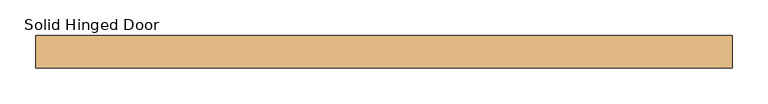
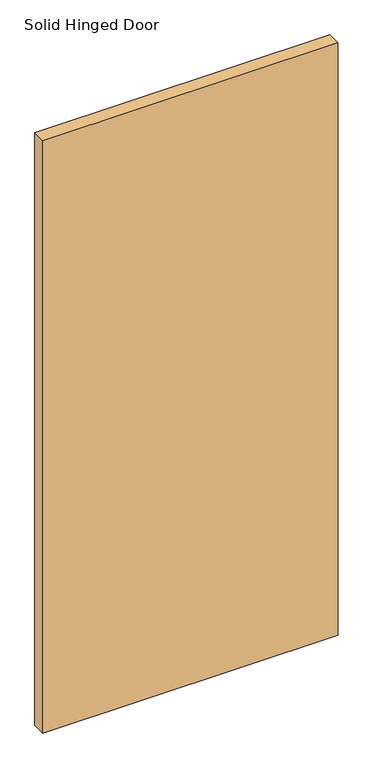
"""IFC4 building model written with IfcOpenShell, lengths in millimetres: door geometry, Solid_Hinged_Door-Teknion-FHDA-Leaf_Single-R2022 : Solid Hinged Door."""

from ifc_helpers import new_model, si_unit, frame, origin, place, context, project, spatial, polyline, outline, extrude, faceted_brep, source, transform, mapped, element, save


def solid_hinged_door_73ac0cfe(model_context):
    return source(origin(), model_context, "Body", "SolidModel", [
        faceted_brep([(490.4564326, 23.114, 12.7), (490.4564326, 7.1501, 12.7), (-484.1064326, 7.1501, 12.7), (-484.1064326, -7.1501, 12.7), (490.4564326, -7.1501, 12.7), (490.4564326, -23.114, 12.7), (-490.4564326, -23.114, 12.7), (-490.4564326, 23.114, 12.7), (490.4564326, -23.114, 2093.9635027), (490.4564326, -7.1501, 50.8), (490.4564326, 7.1501, 50.8), (490.4564326, 23.114, 2093.9635027), (-490.4564326, 23.114, 2093.9635027), (-490.4564326, -23.114, 2093.9635027), (-484.1064326, -7.1501, 50.8), (-484.1064326, 7.1501, 50.8)], [[[0, 1, 2, 3, 4, 5, 6, 7]], [[8, 5, 4, 9, 10, 1, 0, 11]], [[11, 0, 7, 12]], [[12, 7, 6, 13]], [[13, 6, 5, 8]], [[8, 11, 12, 13]], [[9, 4, 3, 14]], [[14, 3, 2, 15]], [[15, 2, 1, 10]], [[15, 10, 9, 14]]]),
        extrude(outline(polyline([(465.0564326, 9.8925062), (-465.0564326, 9.8925062), (-465.0564326, 11.4927062), (465.0564326, 11.4927062), (465.0564326, 9.8925062)])), frame((0.0, 0.0, 12.7), z_axis=(0.0, 0.0, 1.0), x_axis=(1.0, 0.0, 0.0)), (0.0, 0.0, 1.0), 254.0),
        extrude(outline(polyline([(465.0564326, 21.5138), (-465.0564326, 21.5138), (-465.0564326, 23.114), (465.0564326, 23.114), (465.0564326, 21.5138)])), frame((0.0, 0.0, 12.7), z_axis=(0.0, 0.0, 1.0), x_axis=(1.0, 0.0, 0.0)), (0.0, 0.0, 1.0), 254.0),
    ])


if __name__ == "__main__":
    model = new_model("IFC4")
    model_context = context("Model", 3, world=origin())
    ifc_project = project(units=[si_unit("LENGTHUNIT", "METRE", prefix="MILLI")], contexts=[model_context])
    site = spatial("IfcSite", under=ifc_project)
    building = spatial("IfcBuilding", under=site)
    placement = place(None, origin())
    solid_hinged_door_shape = solid_hinged_door_73ac0cfe(model_context)
    element("IfcDoor", 1, ObjectType="Solid_Hinged_Door-Teknion-FHDA-Leaf_Single-R2022 : Solid Hinged Door", at=placement, inside=building, context=model_context, shape_type="MappedRepresentation", body=[
        mapped(solid_hinged_door_shape, transform((0.0, 0.0, 0.0), x_axis=(1.0, 0.0, 0.0), y_axis=(0.0, 1.0, 0.0), z_axis=(0.0, 0.0, 1.0))),
    ])
    save(model, "model.ifc")
